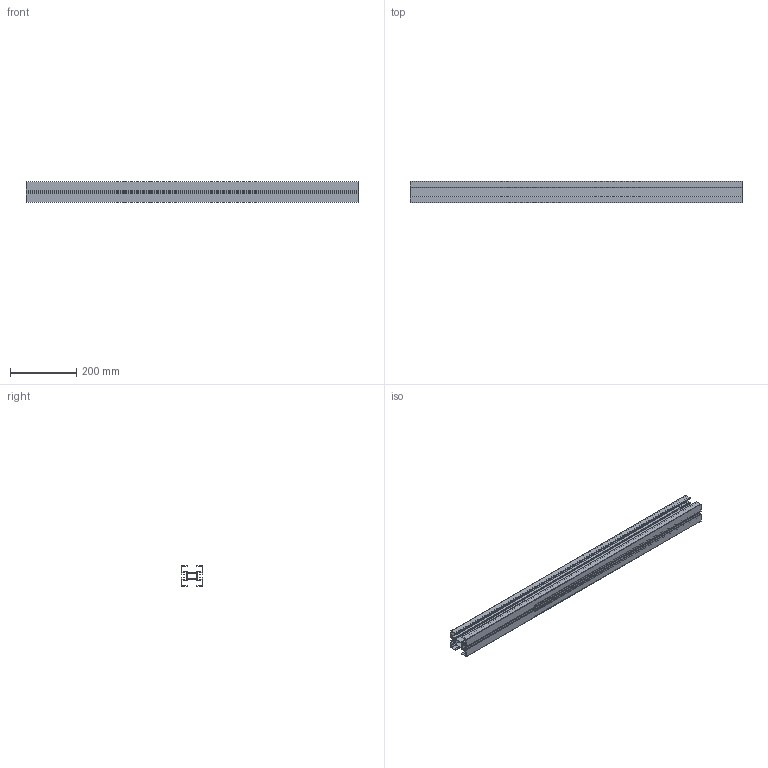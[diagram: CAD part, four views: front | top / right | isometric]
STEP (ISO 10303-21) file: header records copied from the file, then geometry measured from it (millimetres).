
FILE_DESCRIPTION (( 'STEP AP214' ), '1' );
FILE_NAME ('SPS.STEP', '2012-05-04T07:22:50', ( 'gs' ), ( 'Microsoft' ), 'SwSTEP 2.0', 'SolidWorks 2011', '' );
FILE_SCHEMA (( 'AUTOMOTIVE_DESIGN' ));
Length unit declared in the file: millimetre
Products named in the file (1): SPS
Bounding box: 1000 x 65 x 63 mm (x, y, z)
Volume: 771676.7 mm3; surface area: 753909.3 mm2
Topology: 1 solids, 1 shells, 134 faces, 396 edges, 264 vertices
Faces by surface type: plane 88, cylinder 46
Entity records: 4510 total; most frequent: CARTESIAN_POINT 795, ORIENTED_EDGE 792, DIRECTION 758, EDGE_CURVE 396, LINE 304, VECTOR 304, VERTEX_POINT 264, AXIS2_PLACEMENT_3D 227
